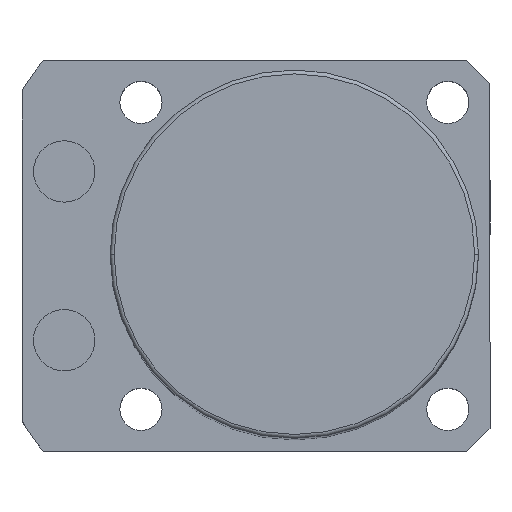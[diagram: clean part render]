
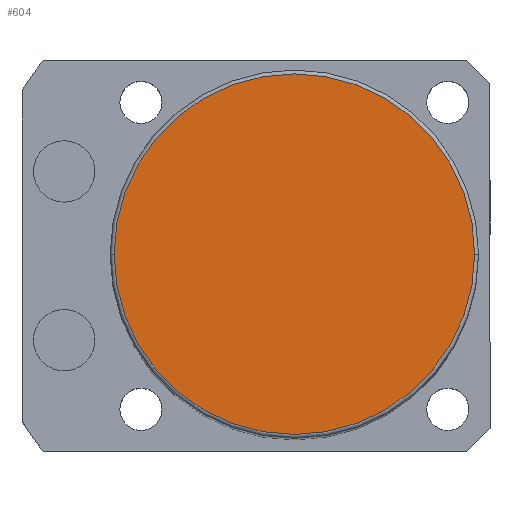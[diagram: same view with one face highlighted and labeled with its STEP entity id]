
A CAD part, top view. The second image highlights one B-rep face of the part: STEP entity #604.
In plain terms, the highlighted planar face has unit normal (0, 0, 1).
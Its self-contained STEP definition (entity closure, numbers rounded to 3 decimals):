
#156 = AXIS2_PLACEMENT_3D ( 'NONE', #1963, #2150, #860 ) ;
#176 = EDGE_LOOP ( 'NONE', ( #957, #1522 ) ) ;
#209 = AXIS2_PLACEMENT_3D ( 'NONE', #768, #2089, #234 ) ;
#234 = DIRECTION ( 'NONE',  ( 1., 0., 0. ) ) ;
#354 = EDGE_CURVE ( 'NONE', #1421, #1340, #740, .T. ) ;
#461 = DIRECTION ( 'NONE',  ( 0., 0., 1. ) ) ;
#465 = AXIS2_PLACEMENT_3D ( 'NONE', #1925, #461, #1356 ) ;
#553 = FACE_OUTER_BOUND ( 'NONE', #176, .T. ) ;
#604 = ADVANCED_FACE ( 'NONE', ( #553 ), #1160, .T. ) ;
#723 = CARTESIAN_POINT ( 'NONE',  ( -23.5, 0., 136. ) ) ;
#740 = CIRCLE ( 'NONE', #156, 23.5 ) ;
#768 = CARTESIAN_POINT ( 'NONE',  ( 0., 0., 136. ) ) ;
#785 = EDGE_CURVE ( 'NONE', #1340, #1421, #1410, .T. ) ;
#789 = CARTESIAN_POINT ( 'NONE',  ( 23.5, 0., 136. ) ) ;
#860 = DIRECTION ( 'NONE',  ( 1., 0., 0. ) ) ;
#957 = ORIENTED_EDGE ( 'NONE', *, *, #785, .T. ) ;
#1160 = PLANE ( 'NONE',  #209 ) ;
#1340 = VERTEX_POINT ( 'NONE', #789 ) ;
#1356 = DIRECTION ( 'NONE',  ( 1., 0., 0. ) ) ;
#1410 = CIRCLE ( 'NONE', #465, 23.5 ) ;
#1421 = VERTEX_POINT ( 'NONE', #723 ) ;
#1522 = ORIENTED_EDGE ( 'NONE', *, *, #354, .T. ) ;
#1925 = CARTESIAN_POINT ( 'NONE',  ( 0., 0., 136. ) ) ;
#1963 = CARTESIAN_POINT ( 'NONE',  ( 0., 0., 136. ) ) ;
#2089 = DIRECTION ( 'NONE',  ( 0., 0., 1. ) ) ;
#2150 = DIRECTION ( 'NONE',  ( 0., 0., 1. ) ) ;
